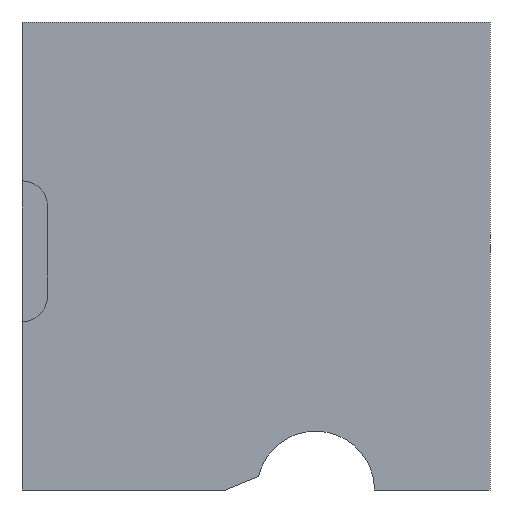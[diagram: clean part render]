
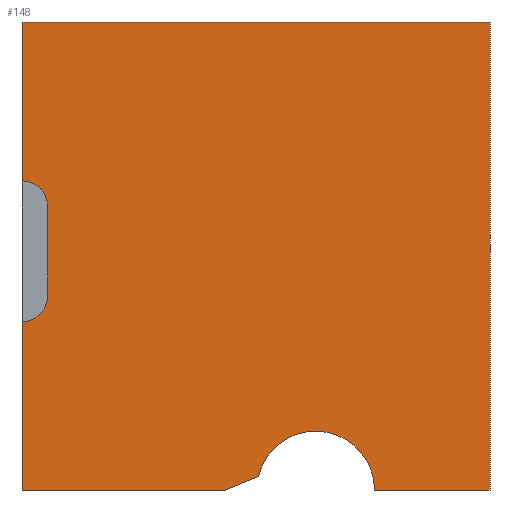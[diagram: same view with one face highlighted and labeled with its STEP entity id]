
A CAD part, front view. The second image highlights one B-rep face of the part: STEP entity #148.
In plain terms, the highlighted planar face has unit normal (0, -1, 0).
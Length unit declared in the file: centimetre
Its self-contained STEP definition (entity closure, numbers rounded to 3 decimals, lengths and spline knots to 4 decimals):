
#1 = CARTESIAN_POINT ( 'NONE',  ( 753.2632, 0., 0. ) ) ;
#3 = DIRECTION ( 'NONE',  ( 0., 0., 1. ) ) ;
#10 = CIRCLE ( 'NONE', #747, 125.6486 ) ;
#24 = EDGE_CURVE ( 'NONE', #1042, #760, #10, .T. ) ;
#46 = ORIENTED_EDGE ( 'NONE', *, *, #62, .F. ) ;
#62 = EDGE_CURVE ( 'NONE', #1130, #1270, #318, .T. ) ;
#70 = ORIENTED_EDGE ( 'NONE', *, *, #1119, .T. ) ;
#86 = DIRECTION ( 'NONE',  ( 0., 0., 1. ) ) ;
#88 = ORIENTED_EDGE ( 'NONE', *, *, #1399, .T. ) ;
#91 = EDGE_LOOP ( 'NONE', ( #703, #601, #936, #807, #580, #46, #88, #281, #443, #1343, #70, #160 ) ) ;
#94 = LINE ( 'NONE', #1163, #99 ) ;
#99 = VECTOR ( 'NONE', #319, 100. ) ;
#112 = CARTESIAN_POINT ( 'NONE',  ( 627.6146, 0., 0. ) ) ;
#148 = ADVANCED_FACE ( 'NONE', ( #1291 ), #830, .F. ) ;
#156 = CARTESIAN_POINT ( 'NONE',  ( 0., 0., 660.6018 ) ) ;
#160 = ORIENTED_EDGE ( 'NONE', *, *, #1304, .T. ) ;
#177 = CARTESIAN_POINT ( 'NONE',  ( 54.5291, 0., 414.1549 ) ) ;
#193 = CARTESIAN_POINT ( 'NONE',  ( 54.5291, 0., 606.0728 ) ) ;
#236 = VECTOR ( 'NONE', #470, 100. ) ;
#238 = VECTOR ( 'NONE', #950, 100. ) ;
#281 = ORIENTED_EDGE ( 'NONE', *, *, #1103, .F. ) ;
#296 = DIRECTION ( 'NONE',  ( 0., -1., 0. ) ) ;
#298 = VECTOR ( 'NONE', #535, 100. ) ;
#318 = LINE ( 'NONE', #730, #1039 ) ;
#319 = DIRECTION ( 'NONE',  ( 0., 0., -1. ) ) ;
#344 = AXIS2_PLACEMENT_3D ( 'NONE', #510, #296, #86 ) ;
#370 = DIRECTION ( 'NONE',  ( 1., 0., 0. ) ) ;
#374 = DIRECTION ( 'NONE',  ( 0., 1., 0. ) ) ;
#380 = CARTESIAN_POINT ( 'NONE',  ( 0., 0., 0. ) ) ;
#381 = AXIS2_PLACEMENT_3D ( 'NONE', #610, #1389, #1051 ) ;
#413 = CIRCLE ( 'NONE', #701, 125.6486 ) ;
#428 = CARTESIAN_POINT ( 'NONE',  ( 505.374, 0., 29.0655 ) ) ;
#443 = ORIENTED_EDGE ( 'NONE', *, *, #1144, .F. ) ;
#466 = EDGE_CURVE ( 'NONE', #1038, #923, #614, .T. ) ;
#470 = DIRECTION ( 'NONE',  ( 1., 0., 0. ) ) ;
#481 = CARTESIAN_POINT ( 'NONE',  ( 434.0162, 0., 0. ) ) ;
#488 = VERTEX_POINT ( 'NONE', #571 ) ;
#510 = CARTESIAN_POINT ( 'NONE',  ( 0., 0., 606.0728 ) ) ;
#523 = LINE ( 'NONE', #193, #588 ) ;
#531 = LINE ( 'NONE', #959, #298 ) ;
#535 = DIRECTION ( 'NONE',  ( 0., 0., -1. ) ) ;
#545 = VECTOR ( 'NONE', #840, 100. ) ;
#571 = CARTESIAN_POINT ( 'NONE',  ( 1000., 0., 0. ) ) ;
#580 = ORIENTED_EDGE ( 'NONE', *, *, #1328, .F. ) ;
#586 = DIRECTION ( 'NONE',  ( 0., 0., 1. ) ) ;
#588 = VECTOR ( 'NONE', #944, 100. ) ;
#590 = LINE ( 'NONE', #380, #236 ) ;
#597 = VERTEX_POINT ( 'NONE', #481 ) ;
#601 = ORIENTED_EDGE ( 'NONE', *, *, #1391, .T. ) ;
#610 = CARTESIAN_POINT ( 'NONE',  ( 0., 0., 1000. ) ) ;
#614 = CIRCLE ( 'NONE', #1018, 54.5291 ) ;
#688 = CARTESIAN_POINT ( 'NONE',  ( 627.6146, 0., 125.6486 ) ) ;
#701 = AXIS2_PLACEMENT_3D ( 'NONE', #112, #1292, #3 ) ;
#703 = ORIENTED_EDGE ( 'NONE', *, *, #1355, .F. ) ;
#716 = VERTEX_POINT ( 'NONE', #1269 ) ;
#725 = LINE ( 'NONE', #1156, #545 ) ;
#730 = CARTESIAN_POINT ( 'NONE',  ( 0., 0., 1000. ) ) ;
#747 = AXIS2_PLACEMENT_3D ( 'NONE', #1354, #374, #958 ) ;
#760 = VERTEX_POINT ( 'NONE', #1 ) ;
#786 = CARTESIAN_POINT ( 'NONE',  ( 0., 0., 0. ) ) ;
#807 = ORIENTED_EDGE ( 'NONE', *, *, #960, .T. ) ;
#813 = VERTEX_POINT ( 'NONE', #428 ) ;
#830 = PLANE ( 'NONE',  #381 ) ;
#840 = DIRECTION ( 'NONE',  ( 0., 0., -1. ) ) ;
#865 = CARTESIAN_POINT ( 'NONE',  ( 1000., 0., 1000. ) ) ;
#923 = VERTEX_POINT ( 'NONE', #1003 ) ;
#936 = ORIENTED_EDGE ( 'NONE', *, *, #24, .T. ) ;
#938 = CARTESIAN_POINT ( 'NONE',  ( 0., 0., 1000. ) ) ;
#944 = DIRECTION ( 'NONE',  ( 0., 0., 1. ) ) ;
#949 = DIRECTION ( 'NONE',  ( 1., 0., 0. ) ) ;
#950 = DIRECTION ( 'NONE',  ( -0.926, 0., -0.377 ) ) ;
#958 = DIRECTION ( 'NONE',  ( 0., 0., 1. ) ) ;
#959 = CARTESIAN_POINT ( 'NONE',  ( 1000., 0., 1000. ) ) ;
#960 = EDGE_CURVE ( 'NONE', #760, #488, #590, .T. ) ;
#965 = LINE ( 'NONE', #1171, #238 ) ;
#1003 = CARTESIAN_POINT ( 'NONE',  ( 0., 0., 359.6259 ) ) ;
#1014 = VERTEX_POINT ( 'NONE', #1236 ) ;
#1017 = DIRECTION ( 'NONE',  ( 0., 1., 0. ) ) ;
#1018 = AXIS2_PLACEMENT_3D ( 'NONE', #1346, #1017, #586 ) ;
#1025 = VERTEX_POINT ( 'NONE', #156 ) ;
#1038 = VERTEX_POINT ( 'NONE', #177 ) ;
#1039 = VECTOR ( 'NONE', #949, 100. ) ;
#1042 = VERTEX_POINT ( 'NONE', #688 ) ;
#1051 = DIRECTION ( 'NONE',  ( 0., 0., 1. ) ) ;
#1103 = EDGE_CURVE ( 'NONE', #716, #1025, #1224, .T. ) ;
#1119 = EDGE_CURVE ( 'NONE', #923, #1014, #725, .T. ) ;
#1130 = VERTEX_POINT ( 'NONE', #938 ) ;
#1144 = EDGE_CURVE ( 'NONE', #1038, #716, #523, .T. ) ;
#1156 = CARTESIAN_POINT ( 'NONE',  ( 0., 0., 1000. ) ) ;
#1163 = CARTESIAN_POINT ( 'NONE',  ( 0., 0., 1000. ) ) ;
#1171 = CARTESIAN_POINT ( 'NONE',  ( 434.0162, 0., 0. ) ) ;
#1224 = CIRCLE ( 'NONE', #344, 54.5291 ) ;
#1236 = CARTESIAN_POINT ( 'NONE',  ( 0., 0., 0. ) ) ;
#1269 = CARTESIAN_POINT ( 'NONE',  ( 54.5291, 0., 606.0728 ) ) ;
#1270 = VERTEX_POINT ( 'NONE', #865 ) ;
#1291 = FACE_OUTER_BOUND ( 'NONE', #91, .T. ) ;
#1292 = DIRECTION ( 'NONE',  ( 0., 1., 0. ) ) ;
#1304 = EDGE_CURVE ( 'NONE', #1014, #597, #1332, .T. ) ;
#1328 = EDGE_CURVE ( 'NONE', #1270, #488, #531, .T. ) ;
#1332 = LINE ( 'NONE', #786, #1345 ) ;
#1343 = ORIENTED_EDGE ( 'NONE', *, *, #466, .T. ) ;
#1345 = VECTOR ( 'NONE', #370, 100. ) ;
#1346 = CARTESIAN_POINT ( 'NONE',  ( 0., 0., 414.1549 ) ) ;
#1354 = CARTESIAN_POINT ( 'NONE',  ( 627.6146, 0., 0. ) ) ;
#1355 = EDGE_CURVE ( 'NONE', #813, #597, #965, .T. ) ;
#1389 = DIRECTION ( 'NONE',  ( 0., 1., 0. ) ) ;
#1391 = EDGE_CURVE ( 'NONE', #813, #1042, #413, .T. ) ;
#1399 = EDGE_CURVE ( 'NONE', #1130, #1025, #94, .T. ) ;
